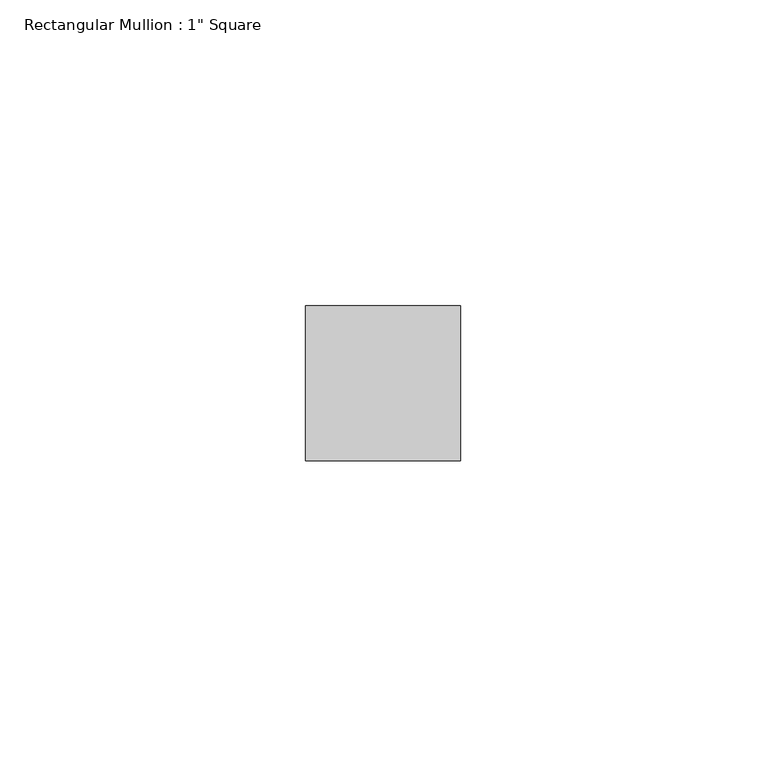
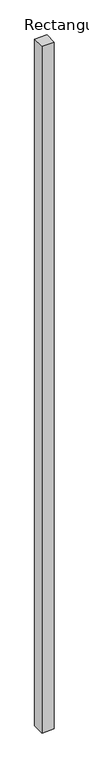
"""IFC4 building model written with IfcOpenShell, lengths in millimetres: member geometry."""

from ifc_helpers import new_model, si_unit, frame, origin, place, context, project, spatial, polyline, outline, extrude, source, transform, mapped, element, save


def member_15743826(model_context):
    return source(origin(), model_context, "Body", "SweptSolid", [
        extrude(outline(polyline([(0.0, 12.7), (0.0, -12.7), (-25.4, -12.7), (-25.4, 12.7), (0.0, 12.7)])), frame((0.0, 0.0, -1485.9000003), z_axis=(0.0, 0.0, 1.0), x_axis=(1.0, 0.0, 0.0)), (0.0, 0.0, 1.0), 1485.9000003),
    ])


if __name__ == "__main__":
    model = new_model("IFC4")
    model_context = context("Model", 3, world=origin())
    ifc_project = project(units=[si_unit("LENGTHUNIT", "METRE", prefix="MILLI")], contexts=[model_context])
    site = spatial("IfcSite", under=ifc_project)
    building = spatial("IfcBuilding", under=site)
    placement = place(None, origin())
    member_shape = member_15743826(model_context)
    element("IfcMember", 1, ObjectType="Rectangular Mullion : 1\" Square", at=placement, inside=building, context=model_context, shape_type="MappedRepresentation", body=[
        mapped(member_shape, transform((0.0, 0.0, 0.0), x_axis=(1.0, 0.0, 0.0), y_axis=(0.0, 1.0, 0.0), z_axis=(0.0, 0.0, 1.0))),
    ])
    save(model, "model.ifc")
